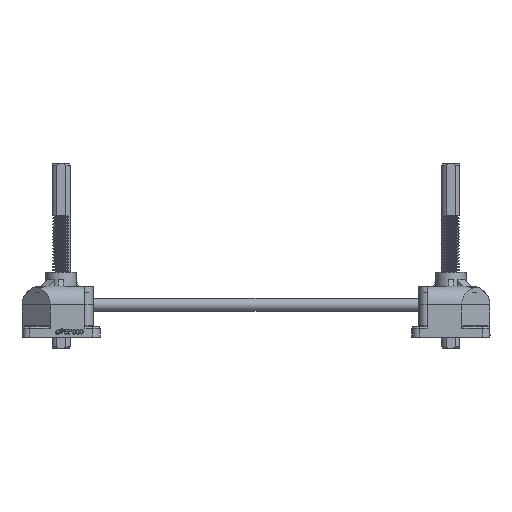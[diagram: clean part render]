
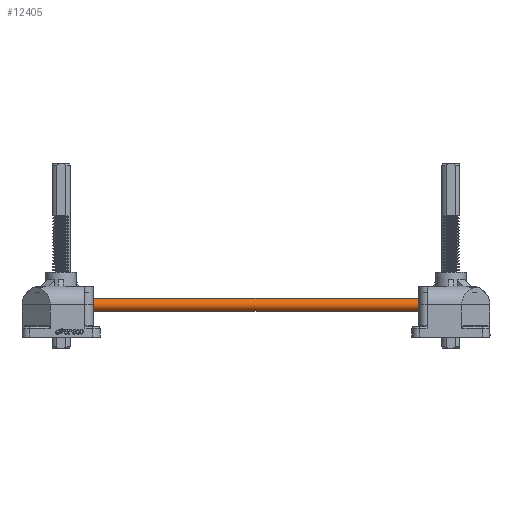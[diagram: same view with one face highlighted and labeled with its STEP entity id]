
A CAD part, left-side view. The second image highlights one B-rep face of the part: STEP entity #12405.
In plain terms, the highlighted cylindrical face has radius 6 mm (diameter 12 mm), a full revolution.
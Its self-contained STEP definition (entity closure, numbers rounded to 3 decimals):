
#12405=ADVANCED_FACE('',(#30881,#30882),#30883,.T.);
#30881=FACE_OUTER_BOUND('',#60264,.T.);
#30882=FACE_OUTER_BOUND('',#60265,.T.);
#30883=CYLINDRICAL_SURFACE('',#60266,6.0);
#60264=EDGE_LOOP('',(#137402));
#60265=EDGE_LOOP('',(#137403));
#60266=AXIS2_PLACEMENT_3D('',#137404,#137405,#137406);
#137402=ORIENTED_EDGE('',*,*,#162737,.T.);
#137403=ORIENTED_EDGE('',*,*,#162734,.T.);
#137404=CARTESIAN_POINT('',(0.0,0.0,382.0));
#137405=DIRECTION('',(0.0,0.0,-1.0));
#137406=DIRECTION('',(-1.0,0.0,0.0));
#162734=EDGE_CURVE('',#204646,#204646,#204647,.F.);
#162737=EDGE_CURVE('',#204652,#204652,#204653,.T.);
#204646=VERTEX_POINT('',#274982);
#204647=CIRCLE('',#274983,6.0);
#204652=VERTEX_POINT('',#274988);
#204653=CIRCLE('',#274989,6.0);
#274982=CARTESIAN_POINT('',(6.0,0.0,381.5));
#274983=AXIS2_PLACEMENT_3D('',#304366,#304367,#304368);
#274988=CARTESIAN_POINT('',(6.0,0.0,0.5));
#274989=AXIS2_PLACEMENT_3D('',#304375,#304376,#304377);
#304366=CARTESIAN_POINT('',(0.0,0.0,381.5));
#304367=DIRECTION('',(0.0,0.0,1.0));
#304368=DIRECTION('',(1.0,0.0,0.0));
#304375=CARTESIAN_POINT('',(0.0,0.0,0.5));
#304376=DIRECTION('',(0.0,0.0,1.0));
#304377=DIRECTION('',(1.0,0.0,0.0));
